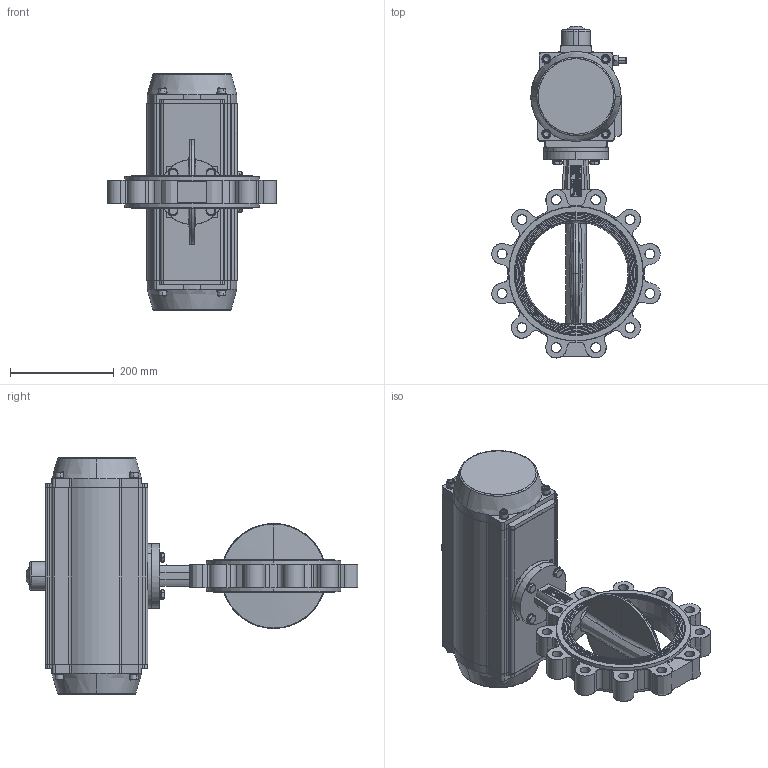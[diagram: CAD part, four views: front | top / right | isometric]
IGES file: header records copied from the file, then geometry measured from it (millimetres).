
Start section: SolidWorks IGES file using analytic representation for surfaces
Global section: file name: H:\BE BIBLIOTHEQUE 3D\BE SECTION 01 - ROBINETS A PAPILLON_VANNES PASSAGE DIRECTE\VP - Vanne Papillon\VPG\VPG4XXX-N07\LUG\DN200 PN16\VPG464X-N07XX0200.igs; native system: SolidWorks 2020; preprocessor: SolidWorks 2020; author: k.gigout; date: 220607.082720; units: millimetre
Bounding box: 324.94 x 640.13 x 456 mm (x, y, z)
Surface area: 771866.1 mm2 (no closed solid volume)
Topology: 0 solids, 0 shells, 744 faces, 20485 edges, 20481 vertices
Faces by surface type: bspline 384, revolution 360
